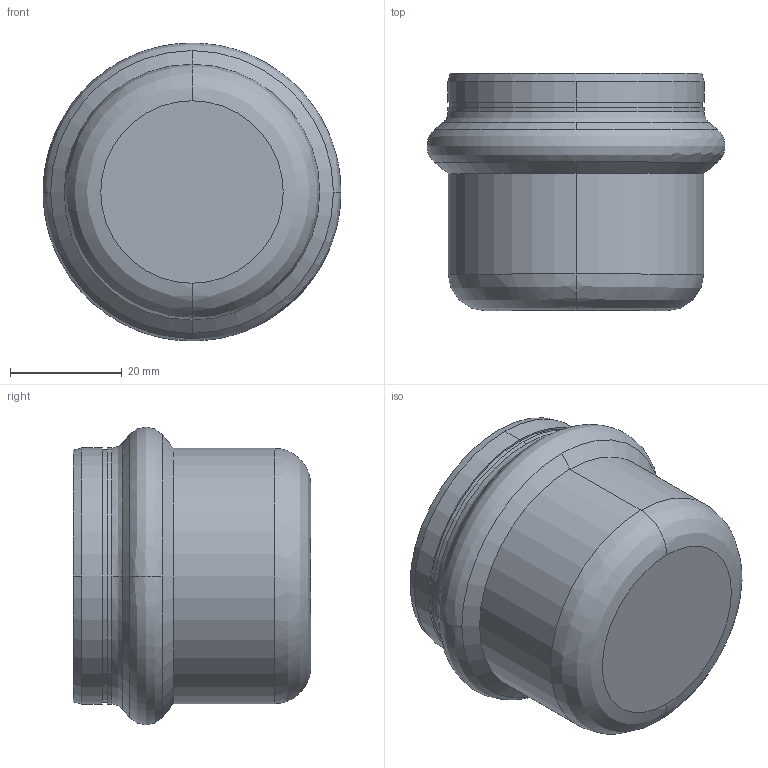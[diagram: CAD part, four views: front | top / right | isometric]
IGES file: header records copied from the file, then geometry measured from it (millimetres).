
Start section: Elysium IGES Interface
Global section: file name: C:\3d modellen sudo\S-Pr VP\SP6301V\6301VW42.igs; native system: CoCreate Modeling 17.00A  17-Jun-2010; preprocessor: CoCreate IGES_3D V2.2; author: Unknown; organization: Unknown; date: 20130129.114426; units: millimetre
Bounding box: 53.4 x 42.55 x 53.36 mm (x, y, z)
Volume: 16879.5 mm3; surface area: 15119.8 mm2
Topology: 1 solids, 1 shells, 44 faces, 102 edges, 66 vertices
Faces by surface type: bspline 44
